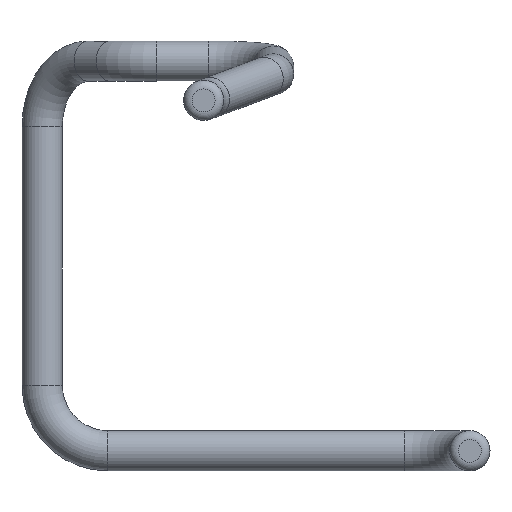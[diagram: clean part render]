
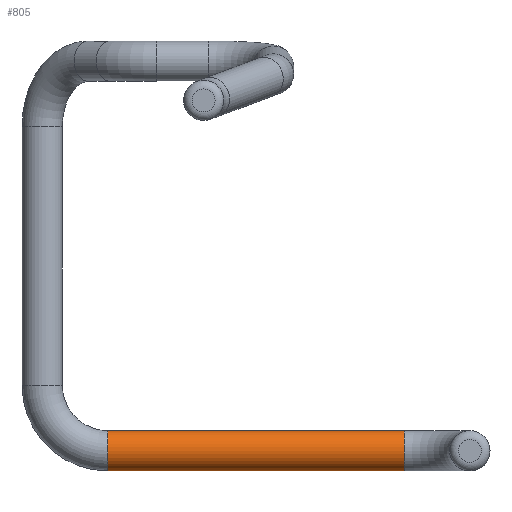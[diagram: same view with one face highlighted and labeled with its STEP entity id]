
A CAD part, front view. The second image highlights one B-rep face of the part: STEP entity #805.
In plain terms, the highlighted cylindrical face has radius 0.925 mm (diameter 1.85 mm), a full revolution.
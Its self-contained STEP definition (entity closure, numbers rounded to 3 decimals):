
#794 = TOROIDAL_SURFACE('',#795,3.,0.925);
#795 = AXIS2_PLACEMENT_3D('',#796,#797,#798);
#796 = CARTESIAN_POINT('',(-30.6,47.65,-17.762));
#797 = DIRECTION('',(0.,1.,0.));
#798 = DIRECTION('',(0.,0.,-1.));
#805 = ADVANCED_FACE('',(#806),#820,.T.);
#806 = FACE_BOUND('',#807,.T.);
#807 = EDGE_LOOP('',(#808,#837,#858,#859));
#808 = ORIENTED_EDGE('',*,*,#809,.T.);
#809 = EDGE_CURVE('',#810,#812,#814,.T.);
#810 = VERTEX_POINT('',#811);
#811 = CARTESIAN_POINT('',(-17.,47.65,-19.837));
#812 = VERTEX_POINT('',#813);
#813 = CARTESIAN_POINT('',(-30.6,47.65,-19.837));
#814 = SEAM_CURVE('',#815,(#819,#831),.PCURVE_S1.);
#815 = LINE('',#816,#817);
#816 = CARTESIAN_POINT('',(-17.,47.65,-19.837));
#817 = VECTOR('',#818,1.);
#818 = DIRECTION('',(-1.,0.,0.));
#819 = PCURVE('',#820,#825);
#820 = CYLINDRICAL_SURFACE('',#821,0.925);
#821 = AXIS2_PLACEMENT_3D('',#822,#823,#824);
#822 = CARTESIAN_POINT('',(-17.,47.65,-20.762));
#823 = DIRECTION('',(-1.,0.,0.));
#824 = DIRECTION('',(0.,0.,1.));
#825 = DEFINITIONAL_REPRESENTATION('',(#826),#830);
#826 = LINE('',#827,#828);
#827 = CARTESIAN_POINT('',(6.283,0.));
#828 = VECTOR('',#829,1.);
#829 = DIRECTION('',(0.,1.));
#830 = ( GEOMETRIC_REPRESENTATION_CONTEXT(2) 
PARAMETRIC_REPRESENTATION_CONTEXT() REPRESENTATION_CONTEXT('2D SPACE',''
  ) );
#831 = PCURVE('',#820,#832);
#832 = DEFINITIONAL_REPRESENTATION('',(#833),#836);
#833 = B_SPLINE_CURVE_WITH_KNOTS('',1,(#834,#835),.UNSPECIFIED.,.F.,.F.,
  (2,2),(0.,13.6),.PIECEWISE_BEZIER_KNOTS.);
#834 = CARTESIAN_POINT('',(0.,0.));
#835 = CARTESIAN_POINT('',(0.,13.6));
#836 = ( GEOMETRIC_REPRESENTATION_CONTEXT(2) 
PARAMETRIC_REPRESENTATION_CONTEXT() REPRESENTATION_CONTEXT('2D SPACE',''
  ) );
#837 = ORIENTED_EDGE('',*,*,#838,.F.);
#838 = EDGE_CURVE('',#812,#812,#839,.T.);
#839 = SURFACE_CURVE('',#840,(#845,#852),.PCURVE_S1.);
#840 = CIRCLE('',#841,0.925);
#841 = AXIS2_PLACEMENT_3D('',#842,#843,#844);
#842 = CARTESIAN_POINT('',(-30.6,47.65,-20.762));
#843 = DIRECTION('',(-1.,0.,0.));
#844 = DIRECTION('',(0.,0.,1.));
#845 = PCURVE('',#820,#846);
#846 = DEFINITIONAL_REPRESENTATION('',(#847),#851);
#847 = LINE('',#848,#849);
#848 = CARTESIAN_POINT('',(0.,13.6));
#849 = VECTOR('',#850,1.);
#850 = DIRECTION('',(1.,0.));
#851 = ( GEOMETRIC_REPRESENTATION_CONTEXT(2) 
PARAMETRIC_REPRESENTATION_CONTEXT() REPRESENTATION_CONTEXT('2D SPACE',''
  ) );
#852 = PCURVE('',#794,#853);
#853 = DEFINITIONAL_REPRESENTATION('',(#854),#857);
#854 = B_SPLINE_CURVE_WITH_KNOTS('',1,(#855,#856),.UNSPECIFIED.,.F.,.F.,
  (2,2),(0.,6.283),.PIECEWISE_BEZIER_KNOTS.);
#855 = CARTESIAN_POINT('',(0.,9.425));
#856 = CARTESIAN_POINT('',(0.,3.142));
#857 = ( GEOMETRIC_REPRESENTATION_CONTEXT(2) 
PARAMETRIC_REPRESENTATION_CONTEXT() REPRESENTATION_CONTEXT('2D SPACE',''
  ) );
#858 = ORIENTED_EDGE('',*,*,#809,.F.);
#859 = ORIENTED_EDGE('',*,*,#860,.F.);
#860 = EDGE_CURVE('',#810,#810,#861,.T.);
#861 = SURFACE_CURVE('',#862,(#867,#873),.PCURVE_S1.);
#862 = CIRCLE('',#863,0.925);
#863 = AXIS2_PLACEMENT_3D('',#864,#865,#866);
#864 = CARTESIAN_POINT('',(-17.,47.65,-20.762));
#865 = DIRECTION('',(1.,0.,-0.));
#866 = DIRECTION('',(0.,1.,0.));
#867 = PCURVE('',#820,#868);
#868 = DEFINITIONAL_REPRESENTATION('',(#869),#872);
#869 = B_SPLINE_CURVE_WITH_KNOTS('',1,(#870,#871),.UNSPECIFIED.,.F.,.F.,
  (2,2),(1.571,7.854),.PIECEWISE_BEZIER_KNOTS.);
#870 = CARTESIAN_POINT('',(6.283,0.));
#871 = CARTESIAN_POINT('',(0.,0.));
#872 = ( GEOMETRIC_REPRESENTATION_CONTEXT(2) 
PARAMETRIC_REPRESENTATION_CONTEXT() REPRESENTATION_CONTEXT('2D SPACE',''
  ) );
#873 = PCURVE('',#874,#879);
#874 = TOROIDAL_SURFACE('',#875,3.,0.925);
#875 = AXIS2_PLACEMENT_3D('',#876,#877,#878);
#876 = CARTESIAN_POINT('',(-17.,44.65,-20.762));
#877 = DIRECTION('',(-0.,-0.,1.));
#878 = DIRECTION('',(1.,0.,0.));
#879 = DEFINITIONAL_REPRESENTATION('',(#880),#884);
#880 = LINE('',#881,#882);
#881 = CARTESIAN_POINT('',(1.571,0.));
#882 = VECTOR('',#883,1.);
#883 = DIRECTION('',(0.,1.));
#884 = ( GEOMETRIC_REPRESENTATION_CONTEXT(2) 
PARAMETRIC_REPRESENTATION_CONTEXT() REPRESENTATION_CONTEXT('2D SPACE',''
  ) );
